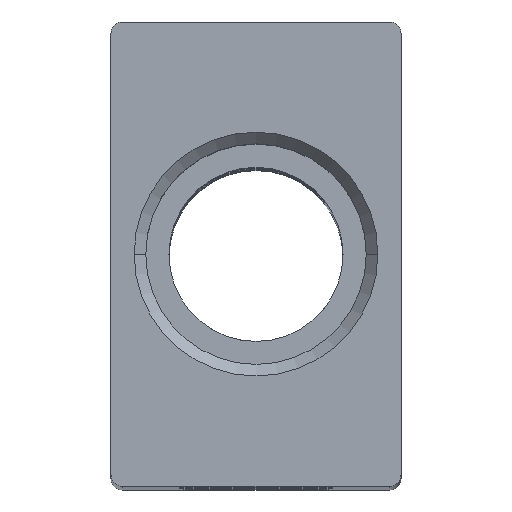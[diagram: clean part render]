
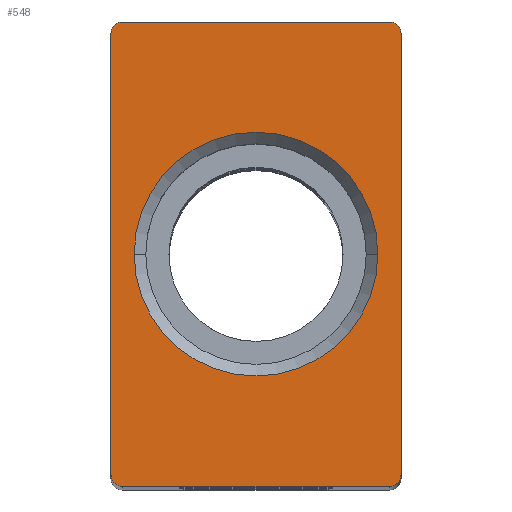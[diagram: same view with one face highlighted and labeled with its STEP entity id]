
A CAD part, top view. The second image highlights one B-rep face of the part: STEP entity #548.
In plain terms, the highlighted planar face has unit normal (0, 0, 1).
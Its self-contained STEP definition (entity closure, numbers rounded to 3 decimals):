
#19 = AXIS2_PLACEMENT_3D ( 'NONE', #1657, #923, #1665 ) ;
#25 = EDGE_CURVE ( 'NONE', #580, #1682, #1708, .T. ) ;
#39 = CARTESIAN_POINT ( 'NONE',  ( 1., 0., 188. ) ) ;
#102 = ORIENTED_EDGE ( 'NONE', *, *, #1857, .T. ) ;
#105 = LINE ( 'NONE', #2056, #1041 ) ;
#119 = DIRECTION ( 'NONE',  ( 0., -1., 0. ) ) ;
#143 = VERTEX_POINT ( 'NONE', #2476 ) ;
#180 = DIRECTION ( 'NONE',  ( 0., 0., 1. ) ) ;
#203 = CARTESIAN_POINT ( 'NONE',  ( 0., 0., 188. ) ) ;
#227 = VERTEX_POINT ( 'NONE', #1494 ) ;
#240 = DIRECTION ( 'NONE',  ( 0., 0., 1. ) ) ;
#273 = ORIENTED_EDGE ( 'NONE', *, *, #1290, .T. ) ;
#280 = VERTEX_POINT ( 'NONE', #2024 ) ;
#296 = VERTEX_POINT ( 'NONE', #39 ) ;
#331 = VECTOR ( 'NONE', #119, 1000. ) ;
#372 = DIRECTION ( 'NONE',  ( -1., 0., 0. ) ) ;
#387 = DIRECTION ( 'NONE',  ( -1., 0., 0. ) ) ;
#427 = EDGE_CURVE ( 'NONE', #280, #143, #981, .T. ) ;
#485 = ORIENTED_EDGE ( 'NONE', *, *, #2948, .T. ) ;
#526 = VECTOR ( 'NONE', #372, 1000. ) ;
#548 = ADVANCED_FACE ( 'NONE', ( #631, #556 ), #674, .F. ) ;
#556 = FACE_OUTER_BOUND ( 'NONE', #1759, .T. ) ;
#580 = VERTEX_POINT ( 'NONE', #1128 ) ;
#631 = FACE_BOUND ( 'NONE', #1327, .T. ) ;
#674 = PLANE ( 'NONE',  #2297 ) ;
#718 = CARTESIAN_POINT ( 'NONE',  ( 1., 40., 188. ) ) ;
#725 = ORIENTED_EDGE ( 'NONE', *, *, #1388, .T. ) ;
#827 = AXIS2_PLACEMENT_3D ( 'NONE', #2364, #1812, #387 ) ;
#830 = DIRECTION ( 'NONE',  ( -1., 0., 0. ) ) ;
#902 = CIRCLE ( 'NONE', #969, 1. ) ;
#907 = CARTESIAN_POINT ( 'NONE',  ( 12.5, 20., 188. ) ) ;
#909 = CARTESIAN_POINT ( 'NONE',  ( 23.003, 20., 188. ) ) ;
#923 = DIRECTION ( 'NONE',  ( 0., 0., 1. ) ) ;
#969 = AXIS2_PLACEMENT_3D ( 'NONE', #2775, #3047, #830 ) ;
#971 = CARTESIAN_POINT ( 'NONE',  ( 24., 1., 188. ) ) ;
#981 = LINE ( 'NONE', #1589, #331 ) ;
#993 = CARTESIAN_POINT ( 'NONE',  ( 12.5, 20., 188. ) ) ;
#1008 = CIRCLE ( 'NONE', #2910, 10.503 ) ;
#1041 = VECTOR ( 'NONE', #1346, 1000. ) ;
#1073 = ORIENTED_EDGE ( 'NONE', *, *, #1613, .T. ) ;
#1128 = CARTESIAN_POINT ( 'NONE',  ( 24., 40., 188. ) ) ;
#1221 = DIRECTION ( 'NONE',  ( 0., 0., 1. ) ) ;
#1290 = EDGE_CURVE ( 'NONE', #143, #296, #2115, .T. ) ;
#1314 = VERTEX_POINT ( 'NONE', #2175 ) ;
#1327 = EDGE_LOOP ( 'NONE', ( #3072, #2202 ) ) ;
#1335 = EDGE_CURVE ( 'NONE', #3200, #2934, #1008, .T. ) ;
#1346 = DIRECTION ( 'NONE',  ( 0., 1., 0. ) ) ;
#1379 = VECTOR ( 'NONE', #2412, 1000. ) ;
#1388 = EDGE_CURVE ( 'NONE', #227, #1314, #1578, .T. ) ;
#1404 = DIRECTION ( 'NONE',  ( 0., 0., -1. ) ) ;
#1444 = CARTESIAN_POINT ( 'NONE',  ( 25., 39., 188. ) ) ;
#1458 = EDGE_CURVE ( 'NONE', #2934, #3200, #2241, .T. ) ;
#1494 = CARTESIAN_POINT ( 'NONE',  ( 24., 0., 188. ) ) ;
#1495 = DIRECTION ( 'NONE',  ( -1., 0., 0. ) ) ;
#1578 = CIRCLE ( 'NONE', #1957, 1. ) ;
#1589 = CARTESIAN_POINT ( 'NONE',  ( 0., 0., 188. ) ) ;
#1613 = EDGE_CURVE ( 'NONE', #296, #227, #1854, .T. ) ;
#1657 = CARTESIAN_POINT ( 'NONE',  ( 1., 1., 188. ) ) ;
#1665 = DIRECTION ( 'NONE',  ( -1., 0., 0. ) ) ;
#1682 = VERTEX_POINT ( 'NONE', #718 ) ;
#1708 = LINE ( 'NONE', #2560, #526 ) ;
#1725 = VERTEX_POINT ( 'NONE', #1444 ) ;
#1759 = EDGE_LOOP ( 'NONE', ( #1073, #725, #2778, #485, #2567, #102, #1842, #273 ) ) ;
#1812 = DIRECTION ( 'NONE',  ( 0., 0., 1. ) ) ;
#1842 = ORIENTED_EDGE ( 'NONE', *, *, #427, .T. ) ;
#1854 = LINE ( 'NONE', #203, #1379 ) ;
#1857 = EDGE_CURVE ( 'NONE', #1682, #280, #2946, .T. ) ;
#1891 = DIRECTION ( 'NONE',  ( -1., 0., 0. ) ) ;
#1957 = AXIS2_PLACEMENT_3D ( 'NONE', #971, #1221, #1495 ) ;
#2024 = CARTESIAN_POINT ( 'NONE',  ( 0., 39., 188. ) ) ;
#2056 = CARTESIAN_POINT ( 'NONE',  ( 25., 0., 188. ) ) ;
#2115 = CIRCLE ( 'NONE', #19, 1. ) ;
#2133 = EDGE_CURVE ( 'NONE', #1314, #1725, #105, .T. ) ;
#2175 = CARTESIAN_POINT ( 'NONE',  ( 25., 1., 188. ) ) ;
#2202 = ORIENTED_EDGE ( 'NONE', *, *, #1458, .F. ) ;
#2241 = CIRCLE ( 'NONE', #2784, 10.503 ) ;
#2271 = CARTESIAN_POINT ( 'NONE',  ( 1.997, 20., 188. ) ) ;
#2297 = AXIS2_PLACEMENT_3D ( 'NONE', #2363, #1404, #1891 ) ;
#2363 = CARTESIAN_POINT ( 'NONE',  ( 0., 40., 188. ) ) ;
#2364 = CARTESIAN_POINT ( 'NONE',  ( 1., 39., 188. ) ) ;
#2412 = DIRECTION ( 'NONE',  ( 1., 0., 0. ) ) ;
#2476 = CARTESIAN_POINT ( 'NONE',  ( 0., 1., 188. ) ) ;
#2560 = CARTESIAN_POINT ( 'NONE',  ( 0., 40., 188. ) ) ;
#2567 = ORIENTED_EDGE ( 'NONE', *, *, #25, .T. ) ;
#2712 = DIRECTION ( 'NONE',  ( 1., 0., 0. ) ) ;
#2775 = CARTESIAN_POINT ( 'NONE',  ( 24., 39., 188. ) ) ;
#2778 = ORIENTED_EDGE ( 'NONE', *, *, #2133, .T. ) ;
#2784 = AXIS2_PLACEMENT_3D ( 'NONE', #993, #240, #2712 ) ;
#2910 = AXIS2_PLACEMENT_3D ( 'NONE', #907, #180, #3154 ) ;
#2934 = VERTEX_POINT ( 'NONE', #2271 ) ;
#2946 = CIRCLE ( 'NONE', #827, 1. ) ;
#2948 = EDGE_CURVE ( 'NONE', #1725, #580, #902, .T. ) ;
#3047 = DIRECTION ( 'NONE',  ( 0., 0., 1. ) ) ;
#3072 = ORIENTED_EDGE ( 'NONE', *, *, #1335, .F. ) ;
#3154 = DIRECTION ( 'NONE',  ( 1., 0., 0. ) ) ;
#3200 = VERTEX_POINT ( 'NONE', #909 ) ;
